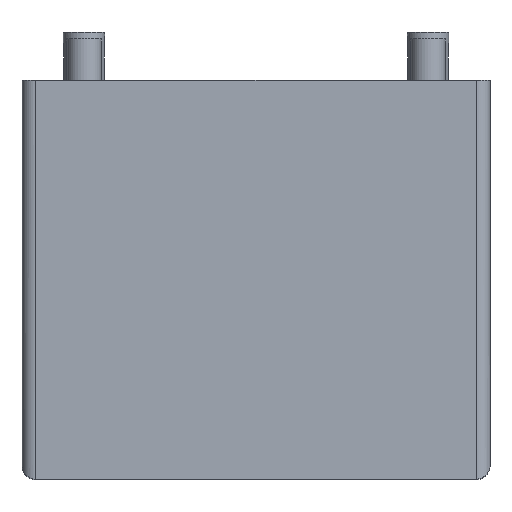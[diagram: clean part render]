
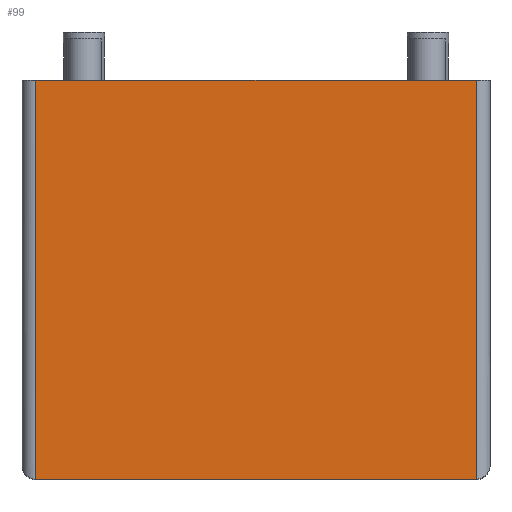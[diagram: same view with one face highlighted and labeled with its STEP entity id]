
A CAD part, top view. The second image highlights one B-rep face of the part: STEP entity #99.
In plain terms, the highlighted planar face has unit normal (0, 0, 1).
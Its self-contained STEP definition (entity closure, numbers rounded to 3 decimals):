
#99=ADVANCED_FACE('',(#251),#252,.F.);
#251=FACE_OUTER_BOUND('',#477,.T.);
#252=PLANE('',#478);
#477=EDGE_LOOP('',(#727,#728,#729,#730));
#478=AXIS2_PLACEMENT_3D('',#731,#732,#733);
#727=ORIENTED_EDGE('',*,*,#1143,.F.);
#728=ORIENTED_EDGE('',*,*,#1131,.T.);
#729=ORIENTED_EDGE('',*,*,#1146,.F.);
#730=ORIENTED_EDGE('',*,*,#1147,.T.);
#731=CARTESIAN_POINT('',(17.0,-29.0,14.5));
#732=DIRECTION('',(0.0,0.0,-1.0));
#733=DIRECTION('',(0.0,-1.0,0.0));
#1131=EDGE_CURVE('',#1306,#1303,#1307,.T.);
#1143=EDGE_CURVE('',#1306,#1327,#1328,.T.);
#1146=EDGE_CURVE('',#1331,#1303,#1332,.T.);
#1147=EDGE_CURVE('',#1331,#1327,#1333,.T.);
#1303=VERTEX_POINT('',#1607);
#1306=VERTEX_POINT('',#1610);
#1307=LINE('',#1611,#1612);
#1327=VERTEX_POINT('',#1639);
#1328=LINE('',#1640,#1641);
#1331=VERTEX_POINT('',#1645);
#1332=LINE('',#1646,#1647);
#1333=LINE('',#1648,#1649);
#1607=CARTESIAN_POINT('',(16.0,0.,14.5));
#1610=CARTESIAN_POINT('',(16.0,-29.0,14.5));
#1611=CARTESIAN_POINT('',(16.0,-29.0,14.5));
#1612=VECTOR('',#1886,1.0);
#1639=CARTESIAN_POINT('',(-16.0,-29.0,14.5));
#1640=CARTESIAN_POINT('',(17.0,-29.0,14.5));
#1641=VECTOR('',#1900,1.0);
#1645=CARTESIAN_POINT('',(-16.0,0.,14.5));
#1646=CARTESIAN_POINT('',(-17.0,0.,14.5));
#1647=VECTOR('',#1902,1.0);
#1648=CARTESIAN_POINT('',(-16.0,-29.0,14.5));
#1649=VECTOR('',#1903,1.0);
#1886=DIRECTION('',(0.0,1.0,0.0));
#1900=DIRECTION('',(-1.0,0.0,0.0));
#1902=DIRECTION('',(1.0,0.0,0.0));
#1903=DIRECTION('',(0.0,-1.0,0.0));
